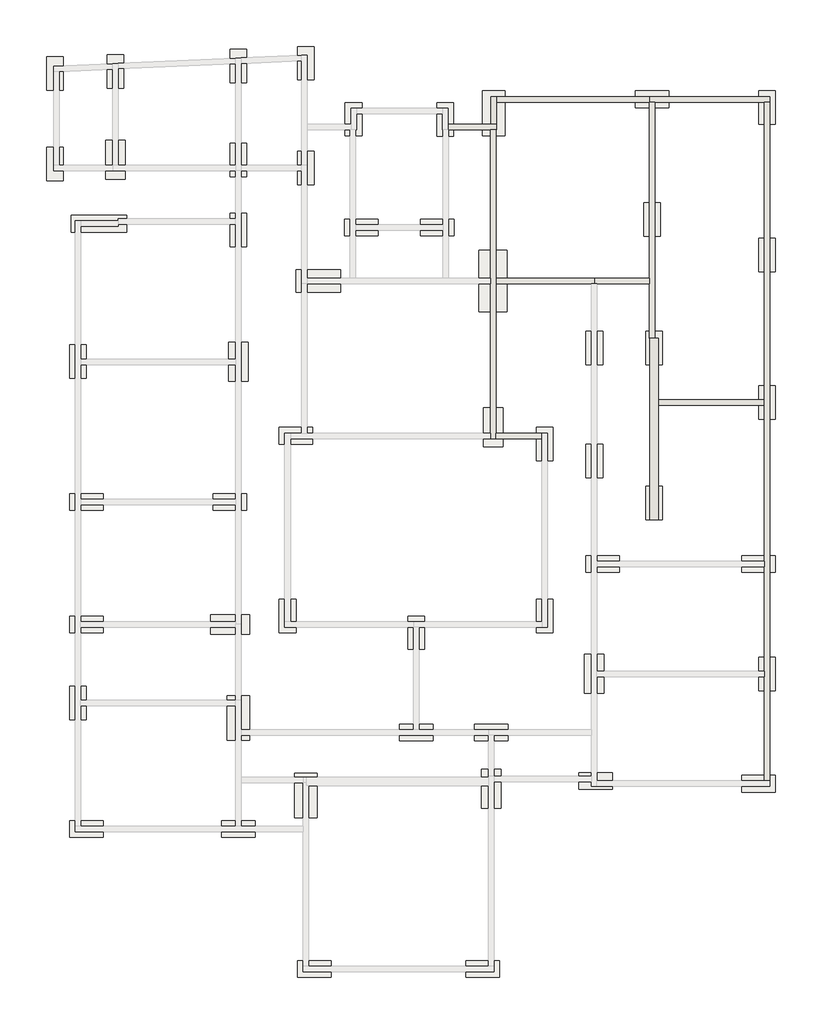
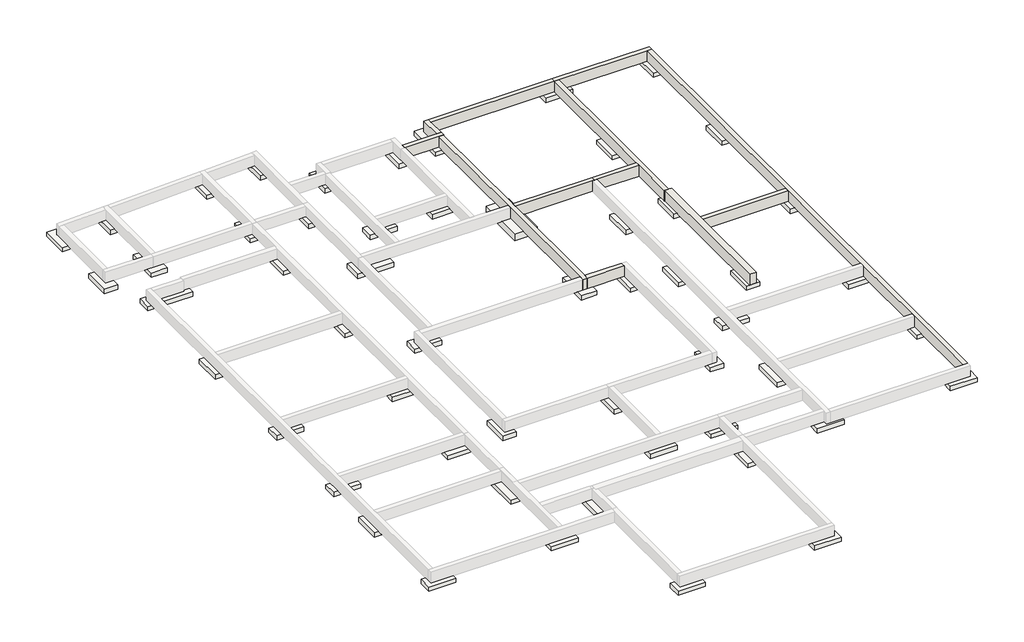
# One storey, part 2 of 2: 54 slabs, 12 walls.
"""IFC4 building model written with IfcOpenShell, lengths in millimetres."""

from ifc_helpers import new_model, si_unit, frame, origin, place, context, project, spatial, polyline, outline, extrude, faceted_brep, element, save

model = new_model("IFC4")

# Units and contexts
model_context = context("Model", 3, world=origin())
ifc_project = project(units=[si_unit("LENGTHUNIT", "METRE", prefix="MILLI")], contexts=[model_context])

# Site, building, storey
site = spatial("IfcSite", under=ifc_project)
building = spatial("IfcBuilding", under=site)
storey = spatial("IfcBuildingStorey", under=building, Name="Arase fondations", Elevation=-670.0)

# Slabs
placement = place(None, origin())
element("IfcSlab", 1, ObjectType="Base rectangulaire : S1 120 x 60 x20", at=placement, inside=storey, context=model_context, shape_type="SweptSolid", body=[
    extrude(outline(polyline([(-13620.5383156, 4421.7911958), (-13620.5383156, 3221.7911958), (-14220.5383156, 3221.7911958), (-14220.5383156, 4421.7911958), (-13620.5383156, 4421.7911958)])), frame((0.0, 0.0, -870.0), z_axis=(0.0, 0.0, 1.0), x_axis=(1.0, 0.0, 0.0)), (0.0, 0.0, 1.0), 200.0),
])
element("IfcSlab", 2, ObjectType="Base rectangulaire : S1 120 x 60 x20", at=placement, inside=storey, context=model_context, shape_type="SweptSolid", body=[
    extrude(outline(polyline([(-14220.5383156, -913.3410127), (-13020.5383156, -913.3410127), (-13020.5383156, -1513.3410127), (-14220.5383156, -1513.3410127), (-14220.5383156, -913.3410127)])), frame((0.0, 0.0, -870.0), z_axis=(0.0, 0.0, 1.0), x_axis=(1.0, 0.0, 0.0)), (0.0, 0.0, 1.0), 200.0),
])
element("IfcSlab", 3, ObjectType="Base rectangulaire : S1 120 x 60 x20", at=placement, inside=storey, context=model_context, shape_type="SweptSolid", body=[
    extrude(outline(polyline([(-14449.5383156, 14768.3640383), (-14449.5383156, 13568.3640383), (-15049.5383156, 13568.3640383), (-15049.5383156, 14768.3640383), (-14449.5383156, 14768.3640383)])), frame((0.0, 0.0, -870.0), z_axis=(0.0, 0.0, 1.0), x_axis=(1.0, 0.0, 0.0)), (0.0, 0.0, 1.0), 200.0),
])
element("IfcSlab", 4, ObjectType="Base rectangulaire : S1 120 x 60 x20", at=placement, inside=storey, context=model_context, shape_type="SweptSolid", body=[
    extrude(outline(polyline([(-14449.5383156, 11516.6589873), (-14449.5383156, 10316.6589873), (-15049.5383156, 10316.6589873), (-15049.5383156, 11516.6589873), (-14449.5383156, 11516.6589873)])), frame((0.0, 0.0, -870.0), z_axis=(0.0, 0.0, 1.0), x_axis=(1.0, 0.0, 0.0)), (0.0, 0.0, 1.0), 200.0),
])
element("IfcSlab", 5, ObjectType="Base rectangulaire : S1 120 x 60 x20", at=placement, inside=storey, context=model_context, shape_type="SweptSolid", body=[
    extrude(outline(polyline([(-12275.5383156, 14835.5041235), (-12275.5383156, 13635.5041235), (-12875.5383156, 13635.5041235), (-12875.5383156, 14835.5041235), (-12275.5383156, 14835.5041235)])), frame((0.0, 0.0, -870.0), z_axis=(0.0, 0.0, 1.0), x_axis=(1.0, 0.0, 0.0)), (0.0, 0.0, 1.0), 200.0),
])
element("IfcSlab", 6, ObjectType="Base rectangulaire : S1 120 x 60 x20", at=placement, inside=storey, context=model_context, shape_type="SweptSolid", body=[
    extrude(outline(polyline([(-7865.5383156, 15028.5898253), (-7865.5383156, 13828.5898253), (-8465.5383156, 13828.5898253), (-8465.5383156, 15028.5898253), (-7865.5383156, 15028.5898253)])), frame((0.0, 0.0, -870.0), z_axis=(0.0, 0.0, 1.0), x_axis=(1.0, 0.0, 0.0)), (0.0, 0.0, 1.0), 200.0),
])
element("IfcSlab", 7, ObjectType="Base rectangulaire : S1 120 x 60 x20", at=placement, inside=storey, context=model_context, shape_type="SweptSolid", body=[
    extrude(outline(polyline([(-5436.5383156, 15130.3702346), (-5436.5383156, 13930.3702346), (-6036.5383156, 13930.3702346), (-6036.5383156, 15130.3702346), (-5436.5383156, 15130.3702346)])), frame((0.0, 0.0, -870.0), z_axis=(0.0, 0.0, 1.0), x_axis=(1.0, 0.0, 0.0)), (0.0, 0.0, 1.0), 200.0),
])
element("IfcSlab", 8, ObjectType="Base rectangulaire : S1 120 x 60 x20", at=placement, inside=storey, context=model_context, shape_type="SweptSolid", body=[
    extrude(outline(polyline([(-3722.5383156, 13120.5364745), (-3722.5383156, 11920.5364745), (-4322.5383156, 11920.5364745), (-4322.5383156, 13120.5364745), (-3722.5383156, 13120.5364745)])), frame((0.0, 0.0, -870.0), z_axis=(0.0, 0.0, 1.0), x_axis=(1.0, 0.0, 0.0)), (0.0, 0.0, 1.0), 200.0),
])
element("IfcSlab", 9, ObjectType="Base rectangulaire : S1 120 x 60 x20", at=placement, inside=storey, context=model_context, shape_type="SweptSolid", body=[
    extrude(outline(polyline([(-5436.5383156, 11366.6589873), (-5436.5383156, 10166.6589873), (-6036.5383156, 10166.6589873), (-6036.5383156, 11366.6589873), (-5436.5383156, 11366.6589873)])), frame((0.0, 0.0, -870.0), z_axis=(0.0, 0.0, 1.0), x_axis=(1.0, 0.0, 0.0)), (0.0, 0.0, 1.0), 200.0),
])
element("IfcSlab", 10, ObjectType="Base rectangulaire : S1 120 x 60 x20", at=placement, inside=storey, context=model_context, shape_type="SweptSolid", body=[
    extrude(outline(polyline([(-430.5383156, 13119.6589873), (-430.5383156, 11919.6589873), (-1030.5383156, 11919.6589873), (-1030.5383156, 13119.6589873), (-430.5383156, 13119.6589873)])), frame((0.0, 0.0, -870.0), z_axis=(0.0, 0.0, 1.0), x_axis=(1.0, 0.0, 0.0)), (0.0, 0.0, 1.0), 200.0),
])
element("IfcSlab", 11, ObjectType="Base rectangulaire : S1 120 x 60 x20", at=placement, inside=storey, context=model_context, shape_type="SweptSolid", body=[
    extrude(outline(polyline([(6094.4616844, 13535.6589873), (7294.4616844, 13535.6589873), (7294.4616844, 12935.6589873), (6094.4616844, 12935.6589873), (6094.4616844, 13535.6589873)])), frame((0.0, 0.0, -870.0), z_axis=(0.0, 0.0, 1.0), x_axis=(1.0, 0.0, 0.0)), (0.0, 0.0, 1.0), 200.0),
])
element("IfcSlab", 12, ObjectType="Base rectangulaire : S1 120 x 60 x20", at=placement, inside=storey, context=model_context, shape_type="SweptSolid", body=[
    extrude(outline(polyline([(10519.0077197, 12335.6589873), (10519.0077197, 13535.6589873), (11119.0077197, 13535.6589873), (11119.0077197, 12335.6589873), (10519.0077197, 12335.6589873)])), frame((0.0, 0.0, -870.0), z_axis=(0.0, 0.0, 1.0), x_axis=(1.0, 0.0, 0.0)), (0.0, 0.0, 1.0), 200.0),
])
element("IfcSlab", 13, ObjectType="Base rectangulaire : S1 120 x 60 x20", at=placement, inside=storey, context=model_context, shape_type="SweptSolid", body=[
    extrude(outline(polyline([(10519.0077197, 7048.6589873), (10519.0077197, 8248.6589873), (11119.0077197, 8248.6589873), (11119.0077197, 7048.6589873), (10519.0077197, 7048.6589873)])), frame((0.0, 0.0, -870.0), z_axis=(0.0, 0.0, 1.0), x_axis=(1.0, 0.0, 0.0)), (0.0, 0.0, 1.0), 200.0),
])
element("IfcSlab", 14, ObjectType="Base rectangulaire : S1 120 x 60 x20", at=placement, inside=storey, context=model_context, shape_type="SweptSolid", body=[
    extrude(outline(polyline([(6394.4616844, 8321.6589873), (6394.4616844, 9521.6589873), (6994.4616844, 9521.6589873), (6994.4616844, 8321.6589873), (6394.4616844, 8321.6589873)])), frame((0.0, 0.0, -870.0), z_axis=(0.0, 0.0, 1.0), x_axis=(1.0, 0.0, 0.0)), (0.0, 0.0, 1.0), 200.0),
])
element("IfcSlab", 15, ObjectType="Base rectangulaire : S1 120 x 60 x20", at=placement, inside=storey, context=model_context, shape_type="SweptSolid", body=[
    extrude(outline(polyline([(-415.5383156, 8341.6589873), (-1615.5383156, 8341.6589873), (-1615.5383156, 8941.6589873), (-415.5383156, 8941.6589873), (-415.5383156, 8341.6589873)])), frame((0.0, 0.0, -870.0), z_axis=(0.0, 0.0, 1.0), x_axis=(1.0, 0.0, 0.0)), (0.0, 0.0, 1.0), 200.0),
])
element("IfcSlab", 16, ObjectType="Base rectangulaire : S1 120 x 60 x20", at=placement, inside=storey, context=model_context, shape_type="SweptSolid", body=[
    extrude(outline(polyline([(-3155.5383156, 8341.6589873), (-4355.5383156, 8341.6589873), (-4355.5383156, 8941.6589873), (-3155.5383156, 8941.6589873), (-3155.5383156, 8341.6589873)])), frame((0.0, 0.0, -870.0), z_axis=(0.0, 0.0, 1.0), x_axis=(1.0, 0.0, 0.0)), (0.0, 0.0, 1.0), 200.0),
])
element("IfcSlab", 17, ObjectType="Base rectangulaire : S1 120 x 60 x20", at=placement, inside=storey, context=model_context, shape_type="SweptSolid", body=[
    extrude(outline(polyline([(4919.0077197, 4911.6589873), (4919.0077197, 3711.6589873), (4319.0077197, 3711.6589873), (4319.0077197, 4911.6589873), (4919.0077197, 4911.6589873)])), frame((0.0, 0.0, -870.0), z_axis=(0.0, 0.0, 1.0), x_axis=(1.0, 0.0, 0.0)), (0.0, 0.0, 1.0), 200.0),
])
element("IfcSlab", 18, ObjectType="Base rectangulaire : S1 120 x 60 x20", at=placement, inside=storey, context=model_context, shape_type="SweptSolid", body=[
    extrude(outline(polyline([(7069.0077197, 4911.6589873), (7069.0077197, 3711.6589873), (6469.0077197, 3711.6589873), (6469.0077197, 4911.6589873), (7069.0077197, 4911.6589873)])), frame((0.0, 0.0, -870.0), z_axis=(0.0, 0.0, 1.0), x_axis=(1.0, 0.0, 0.0)), (0.0, 0.0, 1.0), 200.0),
])
element("IfcSlab", 19, ObjectType="Base rectangulaire : S1 120 x 60 x20", at=placement, inside=storey, context=model_context, shape_type="SweptSolid", body=[
    extrude(outline(polyline([(11119.0077197, 2961.6589873), (11119.0077197, 1761.6589873), (10519.0077197, 1761.6589873), (10519.0077197, 2961.6589873), (11119.0077197, 2961.6589873)])), frame((0.0, 0.0, -870.0), z_axis=(0.0, 0.0, 1.0), x_axis=(1.0, 0.0, 0.0)), (0.0, 0.0, 1.0), 200.0),
])
element("IfcSlab", 20, ObjectType="Base rectangulaire : S1 120 x 60 x20", at=placement, inside=storey, context=model_context, shape_type="SweptSolid", body=[
    extrude(outline(polyline([(7069.0077197, -653.3410127), (7069.0077197, -1853.3410127), (6469.0077197, -1853.3410127), (6469.0077197, -653.3410127), (7069.0077197, -653.3410127)])), frame((0.0, 0.0, -870.0), z_axis=(0.0, 0.0, 1.0), x_axis=(1.0, 0.0, 0.0)), (0.0, 0.0, 1.0), 200.0),
])
element("IfcSlab", 21, ObjectType="Base rectangulaire : S1 120 x 60 x20", at=placement, inside=storey, context=model_context, shape_type="SweptSolid", body=[
    extrude(outline(polyline([(9919.0077197, -3133.3410127), (11119.0077197, -3133.3410127), (11119.0077197, -3733.3410127), (9919.0077197, -3733.3410127), (9919.0077197, -3133.3410127)])), frame((0.0, 0.0, -870.0), z_axis=(0.0, 0.0, 1.0), x_axis=(1.0, 0.0, 0.0)), (0.0, 0.0, 1.0), 200.0),
])
element("IfcSlab", 22, ObjectType="Base rectangulaire : S1 120 x 60 x20", at=placement, inside=storey, context=model_context, shape_type="SweptSolid", body=[
    extrude(outline(polyline([(-6694.9922803, 1461.6589873), (-5494.9922803, 1461.6589873), (-5494.9922803, 861.6589873), (-6694.9922803, 861.6589873), (-6694.9922803, 1461.6589873)])), frame((0.0, 0.0, -870.0), z_axis=(0.0, 0.0, 1.0), x_axis=(1.0, 0.0, 0.0)), (0.0, 0.0, 1.0), 200.0),
])
element("IfcSlab", 23, ObjectType="Base rectangulaire : S1 120 x 60 x20", at=placement, inside=storey, context=model_context, shape_type="SweptSolid", body=[
    extrude(outline(polyline([(-6094.9922803, -4705.3410127), (-6094.9922803, -5905.3410127), (-6694.9922803, -5905.3410127), (-6694.9922803, -4705.3410127), (-6094.9922803, -4705.3410127)])), frame((0.0, 0.0, -870.0), z_axis=(0.0, 0.0, 1.0), x_axis=(1.0, 0.0, 0.0)), (0.0, 0.0, 1.0), 200.0),
])
element("IfcSlab", 24, ObjectType="Base rectangulaire : S1 120 x 60 x20", at=placement, inside=storey, context=model_context, shape_type="SweptSolid", body=[
    extrude(outline(polyline([(-14220.5383156, -5304.3410127), (-13020.5383156, -5304.3410127), (-13020.5383156, -5904.3410127), (-14220.5383156, -5904.3410127), (-14220.5383156, -5304.3410127)])), frame((0.0, 0.0, -870.0), z_axis=(0.0, 0.0, 1.0), x_axis=(1.0, 0.0, 0.0)), (0.0, 0.0, 1.0), 200.0),
])
element("IfcSlab", 25, ObjectType="Base rectangulaire : S1 120 x 60 x20", at=placement, inside=storey, context=model_context, shape_type="SweptSolid", body=[
    extrude(outline(polyline([(-14220.5383156, -9028.3410127), (-14220.5383156, -7828.3410127), (-13620.5383156, -7828.3410127), (-13620.5383156, -9028.3410127), (-14220.5383156, -9028.3410127)])), frame((0.0, 0.0, -870.0), z_axis=(0.0, 0.0, 1.0), x_axis=(1.0, 0.0, 0.0)), (0.0, 0.0, 1.0), 200.0),
])
element("IfcSlab", 26, ObjectType="Base rectangulaire : S1 120 x 60 x20", at=placement, inside=storey, context=model_context, shape_type="SweptSolid", body=[
    extrude(outline(polyline([(-13018.9922803, -13245.3410127), (-14218.9922803, -13245.3410127), (-14218.9922803, -12645.3410127), (-13018.9922803, -12645.3410127), (-13018.9922803, -13245.3410127)])), frame((0.0, 0.0, -870.0), z_axis=(0.0, 0.0, 1.0), x_axis=(1.0, 0.0, 0.0)), (0.0, 0.0, 1.0), 200.0),
])
element("IfcSlab", 27, ObjectType="Base rectangulaire : S1 120 x 60 x20", at=placement, inside=storey, context=model_context, shape_type="SweptSolid", body=[
    extrude(outline(polyline([(-7565.5383156, -13245.3410127), (-8765.5383156, -13245.3410127), (-8765.5383156, -12645.3410127), (-7565.5383156, -12645.3410127), (-7565.5383156, -13245.3410127)])), frame((0.0, 0.0, -870.0), z_axis=(0.0, 0.0, 1.0), x_axis=(1.0, 0.0, 0.0)), (0.0, 0.0, 1.0), 200.0),
])
element("IfcSlab", 28, ObjectType="Base rectangulaire : S1 120 x 60 x20", at=placement, inside=storey, context=model_context, shape_type="SweptSolid", body=[
    extrude(outline(polyline([(-4838.9922803, -18273.3410127), (-6038.9922803, -18273.3410127), (-6038.9922803, -17673.3410127), (-4838.9922803, -17673.3410127), (-4838.9922803, -18273.3410127)])), frame((0.0, 0.0, -870.0), z_axis=(0.0, 0.0, 1.0), x_axis=(1.0, 0.0, 0.0)), (0.0, 0.0, 1.0), 200.0),
])
element("IfcSlab", 29, ObjectType="Base rectangulaire : S1 120 x 60 x20", at=placement, inside=storey, context=model_context, shape_type="SweptSolid", body=[
    extrude(outline(polyline([(18.0077197, -17673.3410127), (1218.0077197, -17673.3410127), (1218.0077197, -18273.3410127), (18.0077197, -18273.3410127), (18.0077197, -17673.3410127)])), frame((0.0, 0.0, -870.0), z_axis=(0.0, 0.0, 1.0), x_axis=(1.0, 0.0, 0.0)), (0.0, 0.0, 1.0), 200.0),
])
element("IfcSlab", 30, ObjectType="Base rectangulaire : S1 120 x 60 x20", at=placement, inside=storey, context=model_context, shape_type="SweptSolid", body=[
    extrude(outline(polyline([(-2373.2652979, -9180.3410127), (-1173.2652979, -9180.3410127), (-1173.2652979, -9780.3410127), (-2373.2652979, -9780.3410127), (-2373.2652979, -9180.3410127)])), frame((0.0, 0.0, -870.0), z_axis=(0.0, 0.0, 1.0), x_axis=(1.0, 0.0, 0.0)), (0.0, 0.0, 1.0), 200.0),
])
element("IfcSlab", 31, ObjectType="Base rectangulaire : S1 120 x 60 x20", at=placement, inside=storey, context=model_context, shape_type="SweptSolid", body=[
    extrude(outline(polyline([(318.0077197, -9180.3410127), (1518.0077197, -9180.3410127), (1518.0077197, -9780.3410127), (318.0077197, -9780.3410127), (318.0077197, -9180.3410127)])), frame((0.0, 0.0, -870.0), z_axis=(0.0, 0.0, 1.0), x_axis=(1.0, 0.0, 0.0)), (0.0, 0.0, 1.0), 200.0),
])
element("IfcSlab", 32, ObjectType="Base rectangulaire : S1 120 x 60 x20", at=placement, inside=storey, context=model_context, shape_type="SweptSolid", body=[
    extrude(outline(polyline([(4061.0077197, -10919.3410127), (5261.0077197, -10919.3410127), (5261.0077197, -11519.3410127), (4061.0077197, -11519.3410127), (4061.0077197, -10919.3410127)])), frame((0.0, 0.0, -870.0), z_axis=(0.0, 0.0, 1.0), x_axis=(1.0, 0.0, 0.0)), (0.0, 0.0, 1.0), 200.0),
])
element("IfcSlab", 33, ObjectType="Base rectangulaire : S1 120 x 60 x20", at=placement, inside=storey, context=model_context, shape_type="SweptSolid", body=[
    extrude(outline(polyline([(9919.0077197, -11019.3410127), (11119.0077197, -11019.3410127), (11119.0077197, -11619.3410127), (9919.0077197, -11619.3410127), (9919.0077197, -11019.3410127)])), frame((0.0, 0.0, -870.0), z_axis=(0.0, 0.0, 1.0), x_axis=(1.0, 0.0, 0.0)), (0.0, 0.0, 1.0), 200.0),
])
element("IfcSlab", 34, ObjectType="Base rectangulaire : S1 120 x 60 x20", at=placement, inside=storey, context=model_context, shape_type="SweptSolid", body=[
    extrude(outline(polyline([(10519.0077197, -7978.3410127), (10519.0077197, -6778.3410127), (11119.0077197, -6778.3410127), (11119.0077197, -7978.3410127), (10519.0077197, -7978.3410127)])), frame((0.0, 0.0, -870.0), z_axis=(0.0, 0.0, 1.0), x_axis=(1.0, 0.0, 0.0)), (0.0, 0.0, 1.0), 200.0),
])
element("IfcSlab", 35, ObjectType="Base rectangulaire : S1 120 x 60 x20", at=placement, inside=storey, context=model_context, shape_type="SweptSolid", body=[
    extrude(outline(polyline([(-1473.2652979, -5305.3410127), (-1473.2652979, -6505.3410127), (-2073.2652979, -6505.3410127), (-2073.2652979, -5305.3410127), (-1473.2652979, -5305.3410127)])), frame((0.0, 0.0, -870.0), z_axis=(0.0, 0.0, 1.0), x_axis=(1.0, 0.0, 0.0)), (0.0, 0.0, 1.0), 200.0),
])
element("IfcSlab", 36, ObjectType="Base rectangulaire : S1 120 x 60 x20", at=placement, inside=storey, context=model_context, shape_type="SweptSolid", body=[
    extrude(outline(polyline([(3135.0077197, -4705.3410127), (3135.0077197, -5905.3410127), (2535.0077197, -5905.3410127), (2535.0077197, -4705.3410127), (3135.0077197, -4705.3410127)])), frame((0.0, 0.0, -870.0), z_axis=(0.0, 0.0, 1.0), x_axis=(1.0, 0.0, 0.0)), (0.0, 0.0, 1.0), 200.0),
])
element("IfcSlab", 37, ObjectType="Base rectangulaire : S1 120 x 60 x20", at=placement, inside=storey, context=model_context, shape_type="SweptSolid", body=[
    extrude(outline(polyline([(4319.0077197, -3133.3410127), (5519.0077197, -3133.3410127), (5519.0077197, -3733.3410127), (4319.0077197, -3733.3410127), (4319.0077197, -3133.3410127)])), frame((0.0, 0.0, -870.0), z_axis=(0.0, 0.0, 1.0), x_axis=(1.0, 0.0, 0.0)), (0.0, 0.0, 1.0), 200.0),
])
element("IfcSlab", 38, ObjectType="Base rectangulaire : S1 120 x 60 x20", at=placement, inside=storey, context=model_context, shape_type="SweptSolid", body=[
    extrude(outline(polyline([(4919.0077197, 864.1589873), (4919.0077197, -335.8410127), (4319.0077197, -335.8410127), (4319.0077197, 864.1589873), (4919.0077197, 864.1589873)])), frame((0.0, 0.0, -870.0), z_axis=(0.0, 0.0, 1.0), x_axis=(1.0, 0.0, 0.0)), (0.0, 0.0, 1.0), 200.0),
])
element("IfcSlab", 39, ObjectType="Base rectangulaire : S1 120 x 60 x20", at=placement, inside=storey, context=model_context, shape_type="SweptSolid", body=[
    extrude(outline(polyline([(3135.0077197, 1461.6589873), (3135.0077197, 261.6589873), (2535.0077197, 261.6589873), (2535.0077197, 1461.6589873), (3135.0077197, 1461.6589873)])), frame((0.0, 0.0, -870.0), z_axis=(0.0, 0.0, 1.0), x_axis=(1.0, 0.0, 0.0)), (0.0, 0.0, 1.0), 200.0),
])
element("IfcSlab", 40, ObjectType="Base rectangulaire : S1 120 x 60 x20", at=placement, inside=storey, context=model_context, shape_type="SweptSolid", body=[
    extrude(outline(polyline([(-7865.5383156, 9146.529424), (-7865.5383156, 7946.529424), (-8465.5383156, 7946.529424), (-8465.5383156, 9146.529424), (-7865.5383156, 9146.529424)])), frame((0.0, 0.0, -870.0), z_axis=(0.0, 0.0, 1.0), x_axis=(1.0, 0.0, 0.0)), (0.0, 0.0, 1.0), 200.0),
])
element("IfcSlab", 41, ObjectType="Base rectangulaire : S1 120 x 60 x20", at=placement, inside=storey, context=model_context, shape_type="SweptSolid", body=[
    extrude(outline(polyline([(-7865.5383156, 11666.6589873), (-7865.5383156, 10466.6589873), (-8465.5383156, 10466.6589873), (-8465.5383156, 11666.6589873), (-7865.5383156, 11666.6589873)])), frame((0.0, 0.0, -870.0), z_axis=(0.0, 0.0, 1.0), x_axis=(1.0, 0.0, 0.0)), (0.0, 0.0, 1.0), 200.0),
])
element("IfcSlab", 42, ObjectType="Base rectangulaire : S1 120 x 60 x20", at=placement, inside=storey, context=model_context, shape_type="SweptSolid", body=[
    extrude(outline(polyline([(-9065.5383156, -913.3410127), (-7865.5383156, -913.3410127), (-7865.5383156, -1513.3410127), (-9065.5383156, -1513.3410127), (-9065.5383156, -913.3410127)])), frame((0.0, 0.0, -870.0), z_axis=(0.0, 0.0, 1.0), x_axis=(1.0, 0.0, 0.0)), (0.0, 0.0, 1.0), 200.0),
])
element("IfcSlab", 43, ObjectType="Base rectangulaire : S2 140 x 70 x 20", at=placement, inside=storey, context=model_context, shape_type="SweptSolid", body=[
    extrude(outline(polyline([(1334.4616844, 2161.6589873), (1334.4616844, 761.6589873), (634.4616844, 761.6589873), (634.4616844, 2161.6589873), (1334.4616844, 2161.6589873)])), frame((0.0, 0.0, -870.0), z_axis=(0.0, 0.0, 1.0), x_axis=(1.0, 0.0, 0.0)), (0.0, 0.0, 1.0), 200.0),
])
element("IfcSlab", 44, ObjectType="Base rectangulaire : S2 140 x 70 x 20", at=placement, inside=storey, context=model_context, shape_type="SweptSolid", body=[
    extrude(outline(polyline([(-9165.5383156, -5255.3410127), (-7765.5383156, -5255.3410127), (-7765.5383156, -5955.3410127), (-9165.5383156, -5955.3410127), (-9165.5383156, -5255.3410127)])), frame((0.0, 0.0, -870.0), z_axis=(0.0, 0.0, 1.0), x_axis=(1.0, 0.0, 0.0)), (0.0, 0.0, 1.0), 200.0),
])
element("IfcSlab", 45, ObjectType="Base rectangulaire : S2 140 x 70 x 20", at=placement, inside=storey, context=model_context, shape_type="SweptSolid", body=[
    extrude(outline(polyline([(1268.0077197, -10796.3410127), (1268.0077197, -12196.3410127), (568.0077197, -12196.3410127), (568.0077197, -10796.3410127), (1268.0077197, -10796.3410127)])), frame((0.0, 0.0, -870.0), z_axis=(0.0, 0.0, 1.0), x_axis=(1.0, 0.0, 0.0)), (0.0, 0.0, 1.0), 200.0),
])
element("IfcSlab", 46, ObjectType="Base rectangulaire : S2 140 x 70 x 20", at=placement, inside=storey, context=model_context, shape_type="SweptSolid", body=[
    extrude(outline(polyline([(-7815.5383156, 4516.6589873), (-7815.5383156, 3116.6589873), (-8515.5383156, 3116.6589873), (-8515.5383156, 4516.6589873), (-7815.5383156, 4516.6589873)])), frame((0.0, 0.0, -870.0), z_axis=(0.0, 0.0, 1.0), x_axis=(1.0, 0.0, 0.0)), (0.0, 0.0, 1.0), 200.0),
])
element("IfcSlab", 47, ObjectType="Base rectangulaire : S2 140 x 70 x 20", at=placement, inside=storey, context=model_context, shape_type="Brep", body=[
    faceted_brep([(-12225.5383156, 11766.9971942, -670.0), (-12925.5383156, 11766.9971942, -670.0), (-12925.5383156, 10366.9971942, -670.0), (-12375.3287642, 10366.9971942, -670.0), (-12225.5383156, 10366.9971942, -670.0), (-12225.5383156, 10666.6589873, -670.0), (-12225.5383156, 10866.6589873, -670.0), (-12225.5383156, 11766.9971942, -870.0), (-12225.5383156, 10366.9971942, -870.0), (-12925.5383156, 10366.9971942, -870.0), (-12925.5383156, 11766.9971942, -870.0), (-12225.5383156, 10366.9971942, -830.0)], [[[0, 1, 2, 3, 4, 5, 6]], [[7, 8, 9, 10]], [[1, 0, 7, 10]], [[2, 1, 10, 9]], [[4, 3, 2, 9, 8, 11]], [[0, 6, 5, 4, 11, 8, 7]]]),
])
element("IfcSlab", 48, ObjectType="Base rectangulaire : S2 140 x 70 x 20", at=placement, inside=storey, context=model_context, shape_type="SweptSolid", body=[
    extrude(outline(polyline([(4969.0077197, -6678.3410127), (4969.0077197, -8078.3410127), (4269.0077197, -8078.3410127), (4269.0077197, -6678.3410127), (4969.0077197, -6678.3410127)])), frame((0.0, 0.0, -870.0), z_axis=(0.0, 0.0, 1.0), x_axis=(1.0, 0.0, 0.0)), (0.0, 0.0, 1.0), 200.0),
])
element("IfcSlab", 49, ObjectType="Base rectangulaire : S3 160 x 80 x 20", at=placement, inside=storey, context=model_context, shape_type="SweptSolid", body=[
    extrude(outline(polyline([(-6086.5383156, 7116.6589873), (-4486.5383156, 7116.6589873), (-4486.5383156, 6316.6589873), (-6086.5383156, 6316.6589873), (-6086.5383156, 7116.6589873)])), frame((0.0, 0.0, -870.0), z_axis=(0.0, 0.0, 1.0), x_axis=(1.0, 0.0, 0.0)), (0.0, 0.0, 1.0), 200.0),
])
element("IfcSlab", 50, ObjectType="Base rectangulaire : S3 160 x 80 x 20", at=placement, inside=storey, context=model_context, shape_type="SweptSolid", body=[
    extrude(outline(polyline([(1401.4616844, 13535.6589873), (1401.4616844, 11935.6589873), (601.4616844, 11935.6589873), (601.4616844, 13535.6589873), (1401.4616844, 13535.6589873)])), frame((0.0, 0.0, -870.0), z_axis=(0.0, 0.0, 1.0), x_axis=(1.0, 0.0, 0.0)), (0.0, 0.0, 1.0), 200.0),
])
element("IfcSlab", 51, ObjectType="Base rectangulaire : S3 160 x 80 x 20", at=placement, inside=storey, context=model_context, shape_type="SweptSolid", body=[
    extrude(outline(polyline([(-5338.9922803, -10945.3410127), (-5338.9922803, -12545.3410127), (-6138.9922803, -12545.3410127), (-6138.9922803, -10945.3410127), (-5338.9922803, -10945.3410127)])), frame((0.0, 0.0, -870.0), z_axis=(0.0, 0.0, 1.0), x_axis=(1.0, 0.0, 0.0)), (0.0, 0.0, 1.0), 200.0),
])
element("IfcSlab", 52, ObjectType="Base rectangulaire : S3 160 x 80 x 20", at=placement, inside=storey, context=model_context, shape_type="SweptSolid", body=[
    extrude(outline(polyline([(-7765.5383156, -8158.3410127), (-7765.5383156, -9758.3410127), (-8565.5383156, -9758.3410127), (-8565.5383156, -8158.3410127), (-7765.5383156, -8158.3410127)])), frame((0.0, 0.0, -870.0), z_axis=(0.0, 0.0, 1.0), x_axis=(1.0, 0.0, 0.0)), (0.0, 0.0, 1.0), 200.0),
])
element("IfcSlab", 53, ObjectType="Base rectangulaire : S4 200 x 60 x 20", at=placement, inside=storey, context=model_context, shape_type="Brep", body=[
    faceted_brep([(-14170.5383156, 9075.6589873, -670.0), (-14170.5383156, 8475.6589873, -670.0), (-12170.5383156, 8475.6589873, -670.0), (-12170.5383156, 9075.6589873, -670.0), (-12225.3287642, 9075.6589873, -670.0), (-12375.3287642, 9075.6589873, -670.0), (-14170.5383156, 9075.6589873, -870.0), (-12170.5383156, 9075.6589873, -870.0), (-12170.5383156, 8475.6589873, -870.0), (-14170.5383156, 8475.6589873, -870.0)], [[[0, 1, 2, 3, 4, 5]], [[6, 7, 8, 9]], [[1, 0, 6, 9]], [[2, 1, 9, 8]], [[3, 2, 8, 7]], [[0, 5, 4, 3, 7, 6]]]),
])
element("IfcSlab", 54, ObjectType="Base rectangulaire : S5 220 x 100 x 30", at=placement, inside=storey, context=model_context, shape_type="SweptSolid", body=[
    extrude(outline(polyline([(1484.4616844, 7816.6589873), (1484.4616844, 5616.6589873), (484.4616844, 5616.6589873), (484.4616844, 7816.6589873), (1484.4616844, 7816.6589873)])), frame((0.0, 0.0, -970.0), z_axis=(0.0, 0.0, 1.0), x_axis=(1.0, 0.0, 0.0)), (0.0, 0.0, 1.0), 300.0),
])

# Walls
element("IfcWall", 55, ObjectType="Ext. longrine 20 x 50", at=placement, inside=storey, context=model_context, shape_type="Brep", body=[
    faceted_brep([(10919.0077197, -11219.3410127, -670.0), (10919.0077197, 13135.6589873, -670.0), (10919.0077197, 13135.6589873, -170.0), (10919.0077197, -11219.3410127, -170.0), (10719.0077197, -11219.3410127, -670.0), (10719.0077197, -11219.3410127, -170.0), (10719.0077197, -7478.3410127, -170.0), (10719.0077197, -7278.3410127, -170.0), (10719.0077197, -3533.3410127, -170.0), (10719.0077197, -3333.3410127, -170.0), (10719.0077197, 2261.6589873, -170.0), (10719.0077197, 2461.6589873, -170.0), (10719.0077197, 13135.6589873, -170.0), (10719.0077197, 13135.6589873, -670.0), (10719.0077197, 2461.6589873, -670.0), (10719.0077197, 2261.6589873, -670.0), (10719.0077197, -3333.3410127, -670.0), (10719.0077197, -3533.3410127, -670.0), (10719.0077197, -7278.3410127, -670.0), (10719.0077197, -7478.3410127, -670.0)], [[[0, 1, 2, 3]], [[4, 5, 6, 7, 8, 9, 10, 11, 12, 13, 14, 15, 16, 17, 18, 19]], [[1, 0, 4, 19, 18, 17, 16, 15, 14, 13]], [[3, 2, 12, 11, 10, 9, 8, 7, 6, 5]], [[0, 3, 5, 4]], [[2, 1, 13, 12]]]),
])
element("IfcWall", 56, ObjectType="Ext. longrine 20 x 50", at=placement, inside=storey, context=model_context, shape_type="SweptSolid", body=[
    extrude(outline(polyline([(6919.0077197, 2461.6589873), (10719.0077197, 2461.6589873), (10719.0077197, 2261.6589873), (6919.0077197, 2261.6589873), (6919.0077197, 2461.6589873)])), frame((0.0, 0.0, -670.0), z_axis=(0.0, 0.0, 1.0), x_axis=(1.0, 0.0, 0.0)), (0.0, 0.0, 1.0), 500.0),
])
element("IfcWall", 57, ObjectType="Ext. longrine 20 x 50", at=placement, inside=storey, context=model_context, shape_type="Brep", body=[
    faceted_brep([(10919.0077197, 13335.6589873, -670.0), (6594.4616844, 13335.6589873, -670.0), (6594.4616844, 13335.6589873, -170.0), (10919.0077197, 13335.6589873, -170.0), (10919.0077197, 13135.6589873, -670.0), (10919.0077197, 13135.6589873, -170.0), (10719.0077197, 13135.6589873, -170.0), (6794.4616844, 13135.6589873, -170.0), (6594.4616844, 13135.6589873, -170.0), (6594.4616844, 13135.6589873, -670.0), (6794.4616844, 13135.6589873, -670.0), (10719.0077197, 13135.6589873, -670.0)], [[[0, 1, 2, 3]], [[4, 5, 6, 7, 8, 9, 10, 11]], [[1, 0, 4, 11, 10, 9]], [[3, 2, 8, 7, 6, 5]], [[2, 1, 9, 8]], [[0, 3, 5, 4]]]),
])
element("IfcWall", 58, ObjectType="Ext. longrine 20 x 50", at=placement, inside=storey, context=model_context, shape_type="SweptSolid", body=[
    extrude(outline(polyline([(1099.4616844, 13335.6589873), (6594.4616844, 13335.6589873), (6594.4616844, 13135.6589873), (1099.4616844, 13135.6589873), (1099.4616844, 13335.6589873)])), frame((0.0, 0.0, -670.0), z_axis=(0.0, 0.0, 1.0), x_axis=(1.0, 0.0, 0.0)), (0.0, 0.0, 1.0), 500.0),
])
element("IfcWall", 59, ObjectType="Ext. longrine 20 x 50", at=placement, inside=storey, context=model_context, shape_type="Brep", body=[
    faceted_brep([(6594.4616844, 13135.6589873, -670.0), (6594.4616844, 6816.6589873, -670.0), (6594.4616844, 6616.6589873, -670.0), (6594.4616844, 4661.6589873, -670.0), (6594.4616844, 4661.6589873, -170.0), (6594.4616844, 6616.6589873, -170.0), (6594.4616844, 6816.6589873, -170.0), (6594.4616844, 8501.6589873, -170.0), (6594.4616844, 8801.6589873, -170.0), (6594.4616844, 13135.6589873, -170.0), (6794.4616844, 13135.6589873, -670.0), (6794.4616844, 13135.6589873, -170.0), (6794.4616844, 8801.6589873, -170.0), (6794.4616844, 8501.6589873, -170.0), (6794.4616844, 4661.6589873, -170.0), (6794.4616844, 4661.6589873, -670.0), (6619.0077197, 4661.6589873, -670.0), (6619.0077197, 4661.6589873, -170.0)], [[[0, 1, 2, 3, 4, 5, 6, 7, 8, 9]], [[10, 11, 12, 13, 14, 15]], [[3, 2, 1, 0, 10, 15, 16]], [[4, 3, 16, 15, 14, 17]], [[9, 8, 7, 6, 5, 4, 17, 14, 13, 12, 11]], [[0, 9, 11, 10]]]),
])
element("IfcWall", 60, ObjectType="Ext. longrine 20 x 50", at=placement, inside=storey, context=model_context, shape_type="Brep", body=[
    faceted_brep([(1099.4616844, 12348.6589873, -670.0), (899.4616844, 12348.6589873, -670.0), (-630.5383156, 12348.6589873, -670.0), (-630.5383156, 12348.6589873, -170.0), (899.4616844, 12348.6589873, -170.0), (1099.4616844, 12348.6589873, -170.0), (1099.4616844, 12148.6589873, -670.0), (1099.4616844, 12148.6589873, -170.0), (-630.5383156, 12148.6589873, -170.0), (-630.5383156, 12148.6589873, -670.0)], [[[0, 1, 2, 3, 4, 5]], [[6, 7, 8, 9]], [[2, 1, 0, 6, 9]], [[5, 4, 3, 8, 7]], [[3, 2, 9, 8]], [[0, 5, 7, 6]]]),
])
element("IfcWall", 61, ObjectType="Ext. longrine 20 x 50", at=placement, inside=storey, context=model_context, shape_type="Brep", body=[
    faceted_brep([(4619.0077197, 6816.6589873, -670.0), (1084.4616844, 6816.6589873, -670.0), (1084.4616844, 6816.6589873, -170.0), (4619.0077197, 6816.6589873, -170.0), (4619.0077197, 6616.6589873, -670.0), (4619.0077197, 6616.6589873, -170.0), (4519.0077197, 6616.6589873, -170.0), (1084.4616844, 6616.6589873, -170.0), (1084.4616844, 6616.6589873, -670.0), (4519.0077197, 6616.6589873, -670.0)], [[[0, 1, 2, 3]], [[4, 5, 6, 7, 8, 9]], [[1, 0, 4, 9, 8]], [[3, 2, 7, 6, 5]], [[0, 3, 5, 4]], [[2, 1, 8, 7]]]),
])
element("IfcWall", 62, ObjectType="Ext. longrine 20 x 50", at=placement, inside=storey, context=model_context, shape_type="Brep", body=[
    faceted_brep([(6594.4616844, 6816.6589873, -670.0), (4619.0077197, 6816.6589873, -670.0), (4619.0077197, 6816.6589873, -170.0), (6594.4616844, 6816.6589873, -170.0), (6594.4616844, 6616.6589873, -670.0), (6594.4616844, 6616.6589873, -170.0), (4719.0077197, 6616.6589873, -170.0), (4619.0077197, 6616.6589873, -170.0), (4619.0077197, 6616.6589873, -670.0), (4719.0077197, 6616.6589873, -670.0)], [[[0, 1, 2, 3]], [[4, 5, 6, 7, 8, 9]], [[1, 0, 4, 9, 8]], [[2, 1, 8, 7]], [[3, 2, 7, 6, 5]], [[0, 3, 5, 4]]]),
])
element("IfcWall", 63, ObjectType="Ext. longrine 30 x 50", at=placement, inside=storey, context=model_context, shape_type="Brep", body=[
    faceted_brep([(6919.0077197, -1853.3410127, -670.0), (6919.0077197, 2261.6589873, -670.0), (6919.0077197, 2461.6589873, -670.0), (6919.0077197, 4661.6589873, -670.0), (6919.0077197, 4661.6589873, -170.0), (6919.0077197, 2461.6589873, -170.0), (6919.0077197, 2261.6589873, -170.0), (6919.0077197, -1853.3410127, -170.0), (6919.0077197, -1853.3410127, -330.0), (6619.0077197, -1853.3410127, -670.0), (6619.0077197, -1853.3410127, -330.0), (6619.0077197, -1853.3410127, -170.0), (6619.0077197, 4361.6589873, -170.0), (6619.0077197, 4661.6589873, -170.0), (6619.0077197, 4661.6589873, -670.0), (6794.4616844, 4661.6589873, -670.0), (6794.4616844, 4661.6589873, -170.0), (6819.0077197, 4661.6589873, -170.0)], [[[0, 1, 2, 3, 4, 5, 6, 7, 8]], [[9, 10, 11, 12, 13, 14]], [[3, 2, 1, 0, 9, 14, 15]], [[4, 3, 15, 14, 13, 16, 17]], [[7, 6, 5, 4, 17, 16, 13, 12, 11]], [[0, 8, 7, 11, 10, 9]]]),
])
element("IfcWall", 64, ObjectType="Ext. longrine 20 x 50", at=placement, inside=storey, context=model_context, shape_type="Brep", body=[
    faceted_brep([(884.4616844, 12148.6589873, -670.0), (884.4616844, 6816.6589873, -670.0), (884.4616844, 6616.6589873, -670.0), (884.4616844, 1261.6589873, -670.0), (884.4616844, 1061.6589873, -670.0), (884.4616844, 1061.6589873, -170.0), (884.4616844, 1261.6589873, -170.0), (884.4616844, 6616.6589873, -170.0), (884.4616844, 6816.6589873, -170.0), (884.4616844, 12148.6589873, -170.0), (1084.4616844, 12148.6589873, -670.0), (1084.4616844, 12148.6589873, -170.0), (1084.4616844, 6816.6589873, -170.0), (1084.4616844, 6616.6589873, -170.0), (1084.4616844, 1261.6589873, -170.0), (1084.4616844, 1061.6589873, -170.0), (1084.4616844, 1061.6589873, -670.0), (1084.4616844, 1261.6589873, -670.0), (1084.4616844, 6616.6589873, -670.0), (1084.4616844, 6816.6589873, -670.0)], [[[0, 1, 2, 3, 4, 5, 6, 7, 8, 9]], [[10, 11, 12, 13, 14, 15, 16, 17, 18, 19]], [[4, 3, 2, 1, 0, 10, 19, 18, 17, 16]], [[9, 8, 7, 6, 5, 15, 14, 13, 12, 11]], [[0, 9, 11, 10]], [[5, 4, 16, 15]]]),
])
element("IfcWall", 65, ObjectType="Ext. longrine 20 x 50", at=placement, inside=storey, context=model_context, shape_type="SweptSolid", body=[
    extrude(outline(polyline([(2735.0077197, 1061.6589873), (1084.4616844, 1061.6589873), (1084.4616844, 1261.6589873), (2735.0077197, 1261.6589873), (2735.0077197, 1061.6589873)])), frame((0.0, 0.0, -670.0), z_axis=(0.0, 0.0, 1.0), x_axis=(1.0, 0.0, 0.0)), (0.0, 0.0, 1.0), 500.0),
])
element("IfcWall", 66, ObjectType="Ext. longrine 20 x 50", at=placement, inside=storey, context=model_context, shape_type="Brep", body=[
    faceted_brep([(899.4616844, 13335.6589873, -670.0), (899.4616844, 12348.6589873, -670.0), (899.4616844, 12348.6589873, -170.0), (899.4616844, 13335.6589873, -170.0), (1099.4616844, 13335.6589873, -670.0), (1099.4616844, 13335.6589873, -170.0), (1099.4616844, 13135.6589873, -170.0), (1099.4616844, 12348.6589873, -170.0), (1099.4616844, 12348.6589873, -670.0), (1099.4616844, 13135.6589873, -670.0)], [[[0, 1, 2, 3]], [[4, 5, 6, 7, 8, 9]], [[1, 0, 4, 9, 8]], [[3, 2, 7, 6, 5]], [[0, 3, 5, 4]], [[2, 1, 8, 7]]]),
])

save(model, "model.ifc")
